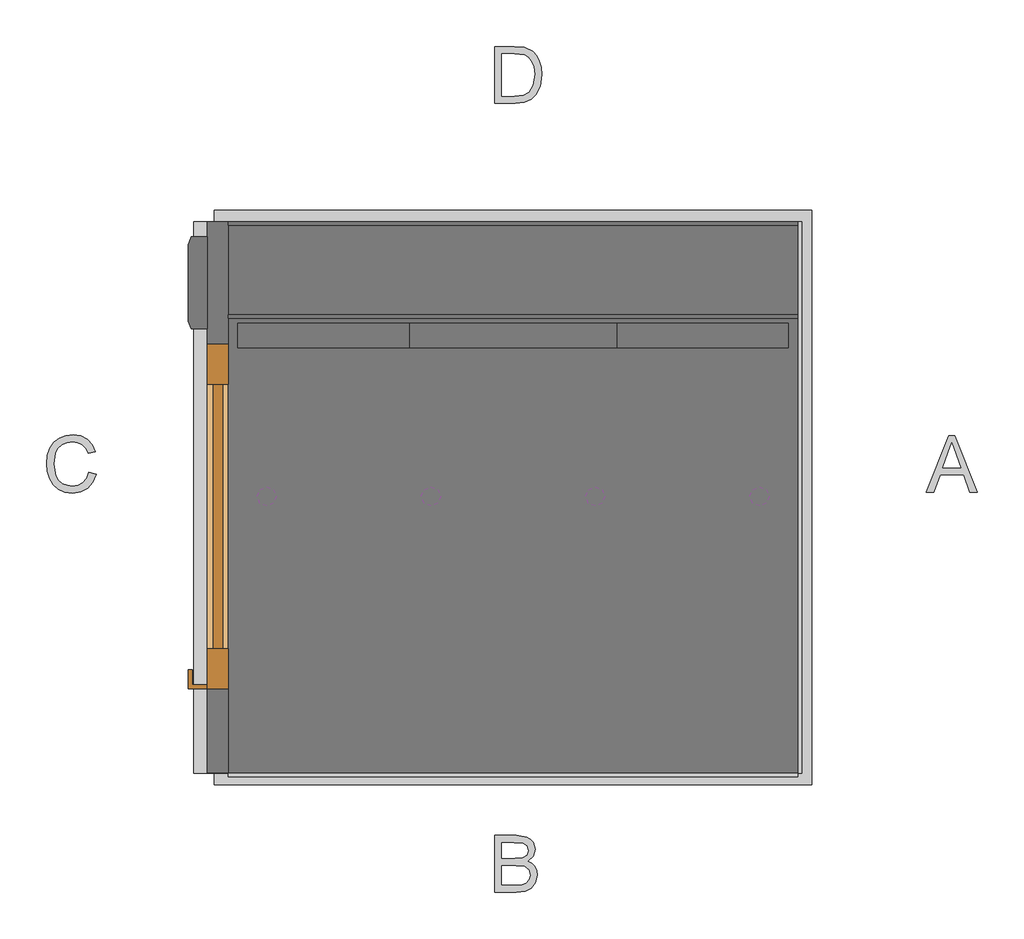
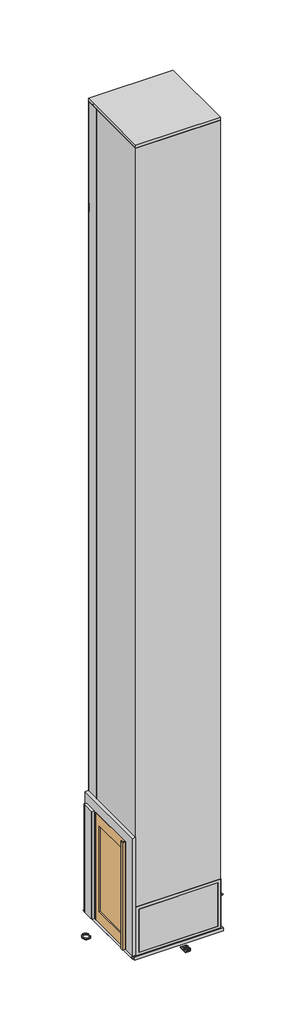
# One storey: 5 proxies, 4 light fixtures, 1 door.
"""IFC4 building model written with IfcOpenShell, lengths in millimetres."""

from ifc_helpers import new_model, si_unit, origin, place, context, project, spatial, transform, mapped, element, save
from components import proxy_1100x1467_3c4d7773, a_side_glass_panel_flexible_height_8747b029, b_side_glass_panel_flexible_height_and_width_ffa260e1, c_side_door_aluminium_1100_x_1467_left_hinged_1f668657, d_side_steel_panel_flexible_height_and_width_1fe6ad77, aluminium_door_single_glass_left_hinged_bedaa4f7, light_fixture_a58e92cf

model = new_model("IFC4")

# Units and contexts
model_context = context("Model", 3, world=origin())
ifc_project = project(units=[si_unit("LENGTHUNIT", "METRE", prefix="MILLI")], contexts=[model_context])

# Site, building, storey
site = spatial("IfcSite", under=ifc_project)
building = spatial("IfcBuilding", under=site)
storey = spatial("IfcBuildingStorey", under=building, Name="Cibes - plan 0", Elevation=-8.9881835)

# Proxies
placement = place(None, origin())
proxy_1100x1467_shape = proxy_1100x1467_3c4d7773(model_context)
element("IfcBuildingElementProxy", 1, Name="Cibes A5000 Base Component : 1100x1467", ObjectType="Cibes A5000 Base Component : 1100x1467", at=placement, inside=storey, context=model_context, shape_type="MappedRepresentation", body=[
    mapped(proxy_1100x1467_shape, transform((24251.4520026, 30129.6913539, -8.9881835), x_axis=(1.0, 0.0, 0.0), y_axis=(0.0, 1.0, 0.0), z_axis=(0.0, 0.0, 1.0))),
])
a_side_glass_panel_flexible_height_shape = a_side_glass_panel_flexible_height_8747b029(model_context)
element("IfcBuildingElementProxy", 2, Name="A-side_Glass Panel : Flexible Height", ObjectType="A-side_Glass Panel : Flexible Height", at=placement, inside=storey, context=model_context, shape_type="MappedRepresentation", body=[
    mapped(a_side_glass_panel_flexible_height_shape, transform((24984.9520027, 30099.6913541, -8.9881806), x_axis=(0.0, -1.0000000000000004, 0.0), y_axis=(1.0000000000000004, 0.0, 0.0), z_axis=(0.0, 0.0, 1.0))),
])
b_side_glass_panel_flexible_height_and_width_shape = b_side_glass_panel_flexible_height_and_width_ffa260e1(model_context)
element("IfcBuildingElementProxy", 3, Name="B-side_Glass Panel : Flexible Height and Width", ObjectType="B-side_Glass Panel : Flexible Height and Width", at=placement, inside=storey, context=model_context, shape_type="MappedRepresentation", body=[
    mapped(b_side_glass_panel_flexible_height_and_width_shape, transform((23507.9520026, 28659.6913539, -8.9881835), x_axis=(1.0, 0.0, 0.0), y_axis=(0.0, 1.0, 0.0), z_axis=(0.0, 0.0, 1.0))),
])
c_side_door_aluminium_1100_x_1467_left_hinged_shape = c_side_door_aluminium_1100_x_1467_left_hinged_1f668657(model_context)
element("IfcBuildingElementProxy", 4, Name="C-side_Door_aluminium : 1100 x 1467 - Left hinged", ObjectType="C-side_Door_aluminium : 1100 x 1467 - Left hinged", at=placement, inside=storey, context=model_context, shape_type="MappedRepresentation", body=[
    mapped(c_side_door_aluminium_1100_x_1467_left_hinged_shape, transform((23507.9520026, 30099.6913539, -53.9881835), x_axis=(0.0, -1.0, 0.0), y_axis=(1.0, 0.0, 0.0), z_axis=(0.0, 0.0, 1.0))),
])
d_side_steel_panel_flexible_height_and_width_shape = d_side_steel_panel_flexible_height_and_width_1fe6ad77(model_context)
element("IfcBuildingElementProxy", 5, Name="D-side_Steel panel : Flexible Height and Width", ObjectType="D-side_Steel panel : Flexible Height and Width", at=placement, inside=storey, context=model_context, shape_type="MappedRepresentation", body=[
    mapped(d_side_steel_panel_flexible_height_and_width_shape, transform((23507.9520026, 30099.6913539, -8.9881835), x_axis=(1.0, 0.0, 0.0), y_axis=(0.0, 1.0, 0.0), z_axis=(0.0, 0.0, 1.0))),
])

# Door
aluminium_door_single_glass_left_hinged_shape = aluminium_door_single_glass_left_hinged_bedaa4f7(model_context)
element("IfcDoor", 6, ObjectType="Aluminium Door_single_glass : Left hinged", at=placement, inside=storey, context=model_context, shape_type="MappedRepresentation", body=[
    mapped(aluminium_door_single_glass_left_hinged_shape, transform((23507.9520026, 29892.6913539, -53.9881835), x_axis=(0.0, -1.0, 0.0), y_axis=(1.0, 0.0, 0.0), z_axis=(0.0, 0.0, 1.0))),
])

# Light fixtures
light_fixture_shape = light_fixture_a58e92cf(model_context)
element("IfcLightFixture", 7, ObjectType="___LED___subcomponent : ___LED___subcomponent", at=placement, inside=storey, context=model_context, shape_type="MappedRepresentation", body=[
    mapped(light_fixture_shape, transform((24894.9520026, 29379.6913539, 13481.0118165), x_axis=(1.000000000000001, 0.0, 0.0), y_axis=(0.0, 1.000000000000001, 0.0), z_axis=(0.0, 0.0, 1.0))),
])
element("IfcLightFixture", 8, ObjectType="___LED___subcomponent : ___LED___subcomponent", at=placement, inside=storey, context=model_context, shape_type="MappedRepresentation", body=[
    mapped(light_fixture_shape, transform((23607.9520026, 29379.6913539, 13481.0118165), x_axis=(1.000000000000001, 0.0, 0.0), y_axis=(0.0, 1.000000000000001, 0.0), z_axis=(0.0, 0.0, 1.0))),
])
element("IfcLightFixture", 9, ObjectType="___LED___subcomponent : ___LED___subcomponent", at=placement, inside=storey, context=model_context, shape_type="MappedRepresentation", body=[
    mapped(light_fixture_shape, transform((24036.9520026, 29379.6913539, 13481.0118165), x_axis=(1.000000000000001, 0.0, 0.0), y_axis=(0.0, 1.000000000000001, 0.0), z_axis=(0.0, 0.0, 1.0))),
])
element("IfcLightFixture", 10, ObjectType="___LED___subcomponent : ___LED___subcomponent", at=placement, inside=storey, context=model_context, shape_type="MappedRepresentation", body=[
    mapped(light_fixture_shape, transform((24465.9520026, 29379.6913539, 13481.0118165), x_axis=(1.000000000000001, 0.0, 0.0), y_axis=(0.0, 1.000000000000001, 0.0), z_axis=(0.0, 0.0, 1.0))),
])

save(model, "model.ifc")
